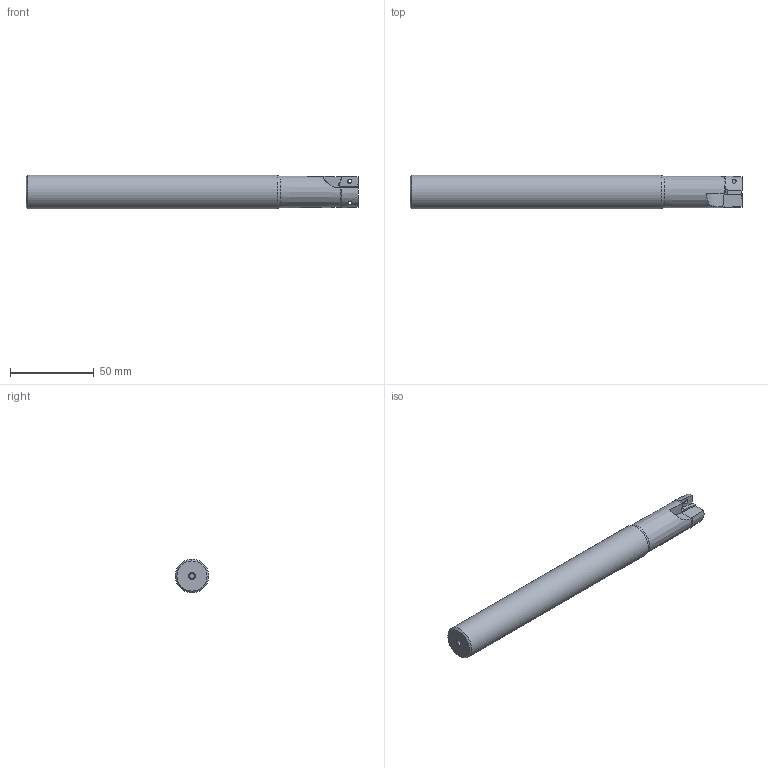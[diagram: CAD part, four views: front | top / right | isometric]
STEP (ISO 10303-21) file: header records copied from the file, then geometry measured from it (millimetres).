
FILE_DESCRIPTION(/* description */ (''),/* implementation_level */ '2;1');
FILE_NAME(/* name */ 'Z:\Проектный отдел\Влад\Фрезы исправления\BAP300R-C20-20-200-2T.stp',/* time_stamp */ '2023-06-02T16:54:15+03:00',/* author */ ('инженер'),/* organization */ (''),/* preprocessor_version */ 'ST-DEVELOPER v18',/* originating_system */ 'Autodesk Inventor 2020',/* authorisation */ '');
FILE_SCHEMA (('AUTOMOTIVE_DESIGN { 1 0 10303 214 3 1 1 }'));
Length unit declared in the file: millimetre
Products named in the file (1): EAP300R-C10-10-120L-1T
Bounding box: 198 x 20 x 20 mm (x, y, z)
Volume: 58590.2 mm3; surface area: 13032.5 mm2
Topology: 1 solids, 1 shells, 38 faces, 111 edges, 77 vertices
Faces by surface type: plane 16, cylinder 9, torus 7, cone 6
Full cylindrical faces by diameter (mm): 2.5 x2, 3 x2, 20 x1
Entity records: 1569 total; most frequent: CARTESIAN_POINT 453, ORIENTED_EDGE 222, DIRECTION 219, EDGE_CURVE 111, AXIS2_PLACEMENT_3D 90, VERTEX_POINT 77, EDGE_LOOP 44, CIRCLE 44
